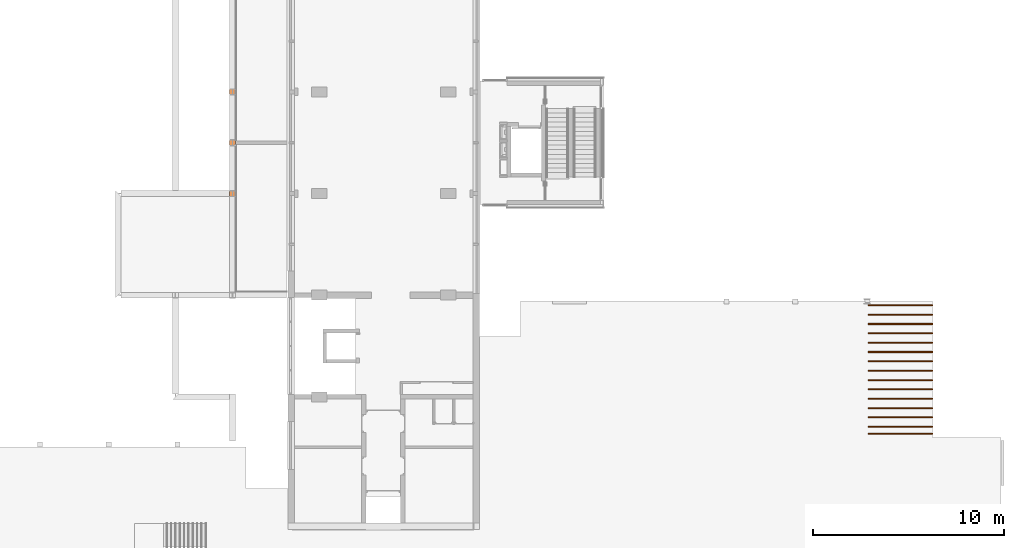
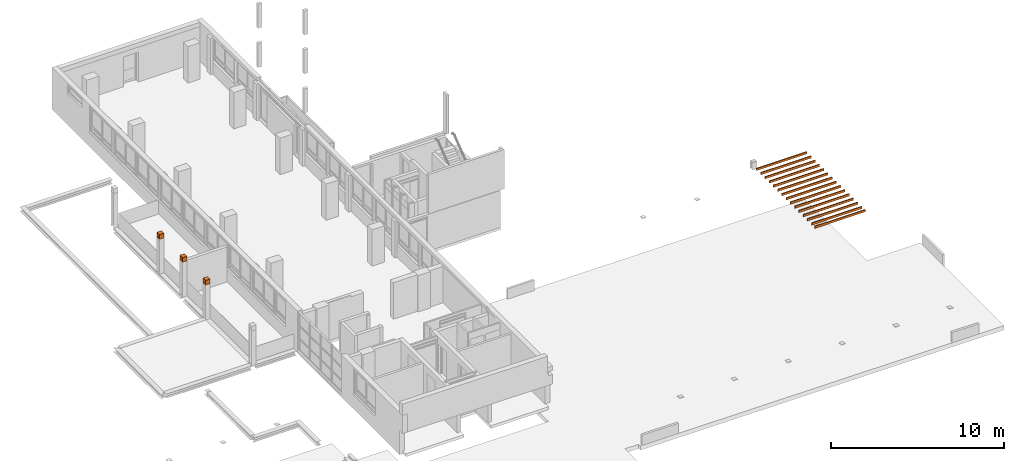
# One storey, part 21 of 22: 18 proxies.
"""IFC2X3 building model written with IfcOpenShell, lengths in millimetres."""

from ifc_helpers import new_model, entity, si_unit, converted_unit, derived_unit, money_unit, direction, frame, origin_with_axes, place, context, subcontext, project, spatial, faceted_brep, source, transform, mapped, material, type_object, type_shapes, element, save


model = new_model("IFC2X3")

# Units and contexts
model_context = context("Model", 3, precision=0.01, world=origin_with_axes(), true_north=direction((0.0, 1.0)))
body_context = subcontext(model_context, "Body", "Model", "MODEL_VIEW")
ifc_project = project(units=[si_unit("LENGTHUNIT", "METRE", prefix="MILLI"), si_unit("AREAUNIT", "SQUARE_METRE"), si_unit("VOLUMEUNIT", "CUBIC_METRE"), converted_unit("PLANEANGLEUNIT", "DEGREE", entity("IfcPlaneAngleMeasure", 0.0174532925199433), si_unit("PLANEANGLEUNIT", "RADIAN"), dimensions=[0, 0, 0, 0, 0, 0, 0]), money_unit("EUR"), converted_unit("TIMEUNIT", "Year", entity("IfcTimeMeasure", 31557600.0), si_unit("TIMEUNIT", "SECOND"), dimensions=[0, 0, 1, 0, 0, 0, 0]), si_unit("MASSUNIT", "GRAM", prefix="KILO"), si_unit("THERMODYNAMICTEMPERATUREUNIT", "DEGREE_CELSIUS"), si_unit("LUMINOUSINTENSITYUNIT", "LUMEN"), si_unit("ENERGYUNIT", "JOULE", prefix="MEGA"), derived_unit("THERMALCONDUCTANCEUNIT", [(si_unit("POWERUNIT", "WATT"), 1), (si_unit("LENGTHUNIT", "METRE"), -1), (si_unit("THERMODYNAMICTEMPERATUREUNIT", "KELVIN"), -1)]), derived_unit("SPECIFICHEATCAPACITYUNIT", [(si_unit("ENERGYUNIT", "JOULE"), 1), (si_unit("MASSUNIT", "GRAM", prefix="KILO"), -1), (si_unit("THERMODYNAMICTEMPERATUREUNIT", "KELVIN"), -1)]), derived_unit("MASSDENSITYUNIT", [(si_unit("MASSUNIT", "GRAM", prefix="KILO"), 1), (si_unit("VOLUMEUNIT", "CUBIC_METRE"), -1)])], contexts=[model_context])

# Site, building, storey
site_placement = place(None, origin_with_axes())
site = spatial("IfcSite", under=ifc_project, at=site_placement, Name="Site", CompositionType="ELEMENT")
building_placement = place(site_placement, origin_with_axes())
building = spatial("IfcBuilding", under=site, at=building_placement, Name="Naam gebouw", CompositionType="ELEMENT")
storey_placement = place(building_placement, frame((0.0, 0.0, 8690.0), z_axis=(0.0, 0.0, 1.0), x_axis=(1.0, 0.0, 0.0)))
storey = spatial("IfcBuildingStorey", under=building, at=storey_placement, Name="2e verdieping V", CompositionType="ELEMENT", Elevation=8690.0)

# Proxies
ifc_material_1 = material(Name="Hout C")
building_element_proxy_type_1 = type_object("IfcBuildingElementProxyType", Name="Prefab balk recht 01 27", PredefinedType="NOTDEFINED")
shared_shape_1 = source(origin_with_axes(), body_context, "Body", "Brep", [
    faceted_brep([(0.0, -28.5, 0.0), (-3360.000000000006, -28.5000000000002, 0.0), (-3360.000000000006, 28.49999999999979, 0.0), (0.0, 28.5, 0.0), (0.0, -28.5, 156.0000000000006), (-3360.000000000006, -28.5000000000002, 156.0000000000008), (-3360.000000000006, 28.49999999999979, 156.0000000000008), (0.0, 28.5, 156.0000000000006)], [[[0, 1, 2, 3]], [[4, 5, 1, 0]], [[1, 5, 6, 2]], [[3, 2, 6, 7]], [[0, 3, 7, 4]], [[7, 6, 5, 4]]]),
])
type_shapes(building_element_proxy_type_1, [shared_shape_1])
for number, where, z_axis, x_axis, name in (
    (1, (53999.99999999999, 23016.4124251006, 2303.999999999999), (0.0, 0.0, 1.0), (1.0, 0.0, 0.0), "_Boom-x"),
    (2, (53999.99999999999, 24976.41242510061, 2303.999999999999), (0.0, 0.0, 1.0), (1.0, 0.0, 0.0), "_Boom-x"),
    (3, (53999.99999999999, 22036.4124251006, 2303.999999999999), (0.0, 0.0, 1.0), (1.0, 0.0, 0.0), "_Boom-x"),
    (4, (53999.99999999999, 21056.4124251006, 2303.999999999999), (0.0, 0.0, 1.0), (1.0, 0.0, 0.0), "_Boom-x"),
    (5, (53999.99999999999, 24486.4124251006, 2303.999999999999), (0.0, 0.0, 1.0), (1.0, 0.0, 0.0), "_Boom-x"),
    (6, (53999.99999999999, 22526.41242510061, 2303.999999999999), (0.0, 0.0, 1.0), (1.0, 0.0, 0.0), "_Boom-x"),
    (7, (53999.99999999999, 21546.41242510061, 2303.999999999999), (0.0, 0.0, 1.0), (1.0, 0.0, 0.0), "_Boom-x"),
    (8, (53999.99999999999, 20685.5124251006, 2303.999999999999), (0.0, 0.0, 1.0), (1.0, 0.0, 0.0), "_Boom-x"),
    (9, (53999.99999999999, 26446.4124251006, 2303.999999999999), (0.0, 0.0, 1.0), (1.0, 0.0, 0.0), "_Boom-x"),
    (10, (53999.99999999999, 27426.4124251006, 2303.999999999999), (0.0, 0.0, 1.0), (1.0, 0.0, 0.0), "_Boom-x"),
    (11, (53999.99999999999, 26936.41242510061, 2303.999999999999), (0.0, 0.0, 1.0), (1.0, 0.0, 0.0), "_Boom-x"),
    (12, (53999.99999999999, 25466.4124251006, 2303.999999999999), (0.0, 0.0, 1.0), (1.0, 0.0, 0.0), "_Boom-x"),
    (13, (53999.99999999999, 25956.41242510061, 2303.999999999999), (0.0, 0.0, 1.0), (1.0, 0.0, 0.0), "_Boom-x"),
    (14, (53999.99999999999, 23506.4124251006, 2303.999999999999), (0.0, 0.0, 1.0), (1.0, 0.0, 0.0), "_Boom-x"),
    (15, (53999.99999999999, 23996.4124251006, 2303.999999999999), (0.0, 0.0, 1.0), (1.0, 0.0, 0.0), "_Boom-x"),
):
    element("IfcBuildingElementProxy", number, at=place(storey_placement, frame(where, z_axis=z_axis, x_axis=x_axis)), inside=storey, type_object=building_element_proxy_type_1, material=ifc_material_1, Name=name, context=body_context, shape_type="MappedRepresentation", body=[
        mapped(shared_shape_1, transform((0.0, 0.0, 0.0))),
    ])
ifc_material_2 = material(Name="staal geanodiseerd RAL 7024")
building_element_proxy_type_2 = type_object("IfcBuildingElementProxyType", Name="Structural Connections 251:Structural Connections 1", PredefinedType="NOTDEFINED")
shared_shape_2 = source(origin_with_axes(), body_context, "Body", "Brep", [
    faceted_brep([(13170.00000127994, 11209.00001265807, 7010.0), (13470.00000127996, 11209.00001265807, 7010.0), (13470.00000127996, 11209.00001265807, 7029.999999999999), (13170.00000127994, 11209.00001265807, 7029.999999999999), (13170.00000127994, 11509.00001265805, 7010.0), (13470.00000127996, 11509.00001265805, 7010.0), (13470.00000127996, 11509.00001265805, 7029.999999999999), (13170.00000127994, 11509.00001265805, 7029.999999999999)], [[[0, 1, 2, 3]], [[0, 4, 5, 1]], [[1, 5, 6, 2]], [[3, 2, 6, 7]], [[4, 0, 3, 7]], [[5, 4, 7, 6]]]),
    faceted_brep([(13170.00000127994, 11209.00001265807, 7290.0), (13470.00000127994, 11209.00001265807, 7290.0), (13470.00000127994, 11209.00001265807, 7310.0), (13170.00000127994, 11209.00001265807, 7310.0), (13170.00000127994, 11509.00001265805, 7290.0), (13470.00000127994, 11509.00001265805, 7290.0), (13470.00000127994, 11509.00001265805, 7310.0), (13170.00000127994, 11509.00001265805, 7310.0)], [[[0, 1, 2, 3]], [[0, 4, 5, 1]], [[1, 5, 6, 2]], [[3, 2, 6, 7]], [[4, 0, 3, 7]], [[5, 4, 7, 6]]]),
    faceted_brep([(13170.00000127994, 11209.00001265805, 7310.000000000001), (13470.00000127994, 11209.00001265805, 7310.000000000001), (13470.00000127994, 11209.00001265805, 7330.0), (13170.00000127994, 11209.00001265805, 7330.0), (13170.00000127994, 11509.00001265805, 7310.000000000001), (13470.00000127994, 11509.00001265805, 7310.000000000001), (13470.00000127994, 11509.00001265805, 7330.0), (13170.00000127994, 11509.00001265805, 7330.0)], [[[0, 1, 2, 3]], [[0, 4, 5, 1]], [[1, 5, 6, 2]], [[3, 2, 6, 7]], [[4, 0, 3, 7]], [[5, 4, 7, 6]]]),
    faceted_brep([(13170.00000127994, 11209.00001265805, 6990.0), (13470.00000127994, 11209.00001265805, 6990.0), (13470.00000127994, 11209.00001265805, 7010.0), (13170.00000127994, 11209.00001265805, 7010.0), (13170.00000127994, 11509.00001265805, 6990.0), (13470.00000127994, 11509.00001265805, 6990.0), (13470.00000127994, 11509.00001265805, 7010.0), (13170.00000127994, 11509.00001265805, 7010.0)], [[[0, 1, 2, 3]], [[0, 4, 5, 1]], [[1, 5, 6, 2]], [[3, 2, 6, 7]], [[4, 0, 3, 7]], [[5, 4, 7, 6]]]),
    faceted_brep([(13189.00000127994, 11209.00001265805, 7310.000000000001), (13170.00000127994, 11209.00001265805, 7310.000000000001), (13170.00000127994, 11209.00001265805, 7010.000000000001), (13189.00000127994, 11209.00001265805, 7010.000000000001), (13189.00000127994, 11353.50001265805, 7310.000000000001), (13451.00000127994, 11353.50001265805, 7310.000000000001), (13451.00000127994, 11209.00001265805, 7310.000000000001), (13470.00000127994, 11209.00001265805, 7310.000000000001), (13470.00000127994, 11509.00001265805, 7310.000000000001), (13451.00000127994, 11509.00001265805, 7310.000000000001), (13451.00000127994, 11364.50001265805, 7310.000000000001), (13189.00000127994, 11364.50001265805, 7310.000000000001), (13189.00000127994, 11509.00001265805, 7310.000000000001), (13170.00000127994, 11509.00001265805, 7310.000000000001), (13170.00000127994, 11509.00001265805, 7010.000000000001), (13189.00000127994, 11509.00001265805, 7010.000000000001), (13189.00000127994, 11364.50001265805, 7010.000000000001), (13451.00000127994, 11364.50001265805, 7010.000000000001), (13451.00000127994, 11509.00001265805, 7010.000000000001), (13470.00000127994, 11509.00001265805, 7010.000000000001), (13470.00000127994, 11209.00001265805, 7010.000000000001), (13451.00000127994, 11209.00001265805, 7010.000000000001), (13451.00000127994, 11353.50001265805, 7010.000000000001), (13189.00000127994, 11353.50001265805, 7010.000000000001)], [[[0, 1, 2, 3]], [[0, 4, 5, 6, 7, 8, 9, 10, 11, 12, 13, 1]], [[1, 13, 14, 2]], [[3, 2, 14, 15, 16, 17, 18, 19, 20, 21, 22, 23]], [[4, 0, 3, 23]], [[5, 4, 23, 22]], [[6, 5, 22, 21]], [[7, 6, 21, 20]], [[8, 7, 20, 19]], [[9, 8, 19, 18]], [[10, 9, 18, 17]], [[11, 10, 17, 16]], [[12, 11, 16, 15]], [[13, 12, 15, 14]]]),
])
type_shapes(building_element_proxy_type_2, [shared_shape_2])
proxy_1_placement = place(storey_placement, frame((28651.00001269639, 22625.91242505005, -4539.999999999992), z_axis=(0.0, 0.0, 1.0), x_axis=(0.0, 1.0, 0.0)))
element("IfcBuildingElementProxy", 16, at=proxy_1_placement, inside=storey, type_object=building_element_proxy_type_2, material=ifc_material_2, Name="Structural Connections 251:Structural Connections 1", context=body_context, shape_type="MappedRepresentation", body=[
    mapped(shared_shape_2, transform((0.0, 0.0, 0.0))),
])
building_element_proxy_type_3 = type_object("IfcBuildingElementProxyType", Name="Structural Connections 257:Structural Connections 1", PredefinedType="NOTDEFINED")
type_shapes(building_element_proxy_type_3, [shared_shape_2])
proxy_2_placement = place(storey_placement, frame((28651.00001266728, 25295.91242503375, -4539.999999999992), z_axis=(0.0, 0.0, 1.0), x_axis=(0.0, 1.0, 0.0)))
element("IfcBuildingElementProxy", 17, at=proxy_2_placement, inside=storey, type_object=building_element_proxy_type_3, material=ifc_material_2, Name="Structural Connections 257:Structural Connections 1", context=body_context, shape_type="MappedRepresentation", body=[
    mapped(shared_shape_2, transform((0.0, 0.0, 0.0))),
])
building_element_proxy_type_4 = type_object("IfcBuildingElementProxyType", Name="Structural Connections 262:Structural Connections 1", PredefinedType="NOTDEFINED")
type_shapes(building_element_proxy_type_4, [shared_shape_2])
proxy_3_placement = place(storey_placement, frame((28651.00001269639, 19965.91242501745, -4539.999999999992), z_axis=(0.0, 0.0, 1.0), x_axis=(0.0, 1.0, 0.0)))
element("IfcBuildingElementProxy", 18, at=proxy_3_placement, inside=storey, type_object=building_element_proxy_type_4, material=ifc_material_2, Name="Structural Connections 262:Structural Connections 1", context=body_context, shape_type="MappedRepresentation", body=[
    mapped(shared_shape_2, transform((0.0, 0.0, 0.0))),
])

save(model, "model.ifc")
